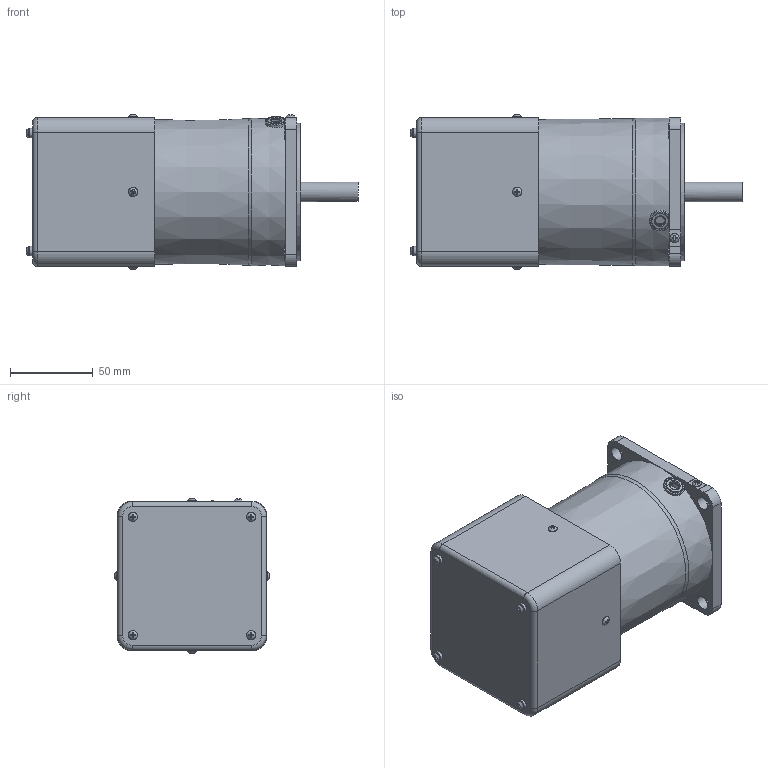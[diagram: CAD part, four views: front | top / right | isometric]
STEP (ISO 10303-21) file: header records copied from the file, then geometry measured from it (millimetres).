
FILE_DESCRIPTION(/* description */ (''),/* implementation_level */ '2;1');
FILE_NAME(/* name */ 'E:\도면작업\2016\0704) 미주향 SG 도면\3D MOTOR\SPEED CONTROL TYPE\SG9I60K_-S12(24).stp',/* time_stamp */ '2017-08-21T11:13:16+09:00',/* author */ ('jy-jung'),/* organization */ (''),/* preprocessor_version */ 'ST-DEVELOPER v15.6',/* originating_system */ 'Autodesk Inventor 2015',/* authorisation */ '');
FILE_SCHEMA (('AUTOMOTIVE_DESIGN { 1 0 10303 214 3 1 1 }'));
Length unit declared in the file: millimetre
Products named in the file (1): 부품27
Bounding box: 200.75 x 93.89 x 93.89 mm (x, y, z)
Volume: 874432.3 mm3; surface area: 101325.1 mm2
Topology: 1 solids, 7 shells, 311 faces, 763 edges, 495 vertices
Faces by surface type: plane 195, cylinder 73, torus 27, bspline 9, cone 7
Full cylindrical faces by diameter (mm): 3 x8, 4.5 x4, 5.6 x13, 6 x1, 8.5 x4, 9.5 x4, 10 x1, 12 x1, 40 x1, 83 x1
Entity records: 9775 total; most frequent: CARTESIAN_POINT 2483, ORIENTED_EDGE 1390, DIRECTION 1357, EDGE_CURVE 695, AXIS2_PLACEMENT_3D 495, VERTEX_POINT 491, EDGE_LOOP 422, LINE 367
